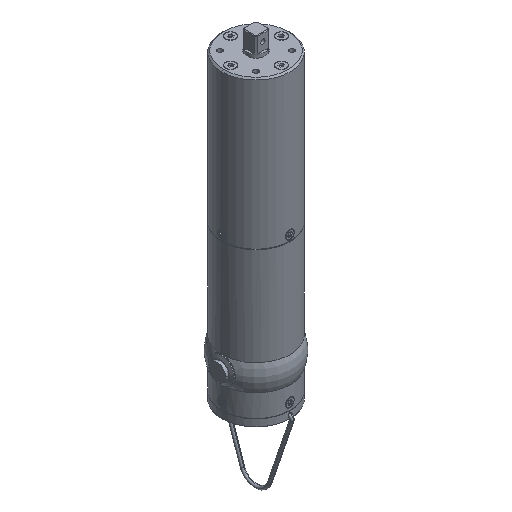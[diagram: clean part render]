
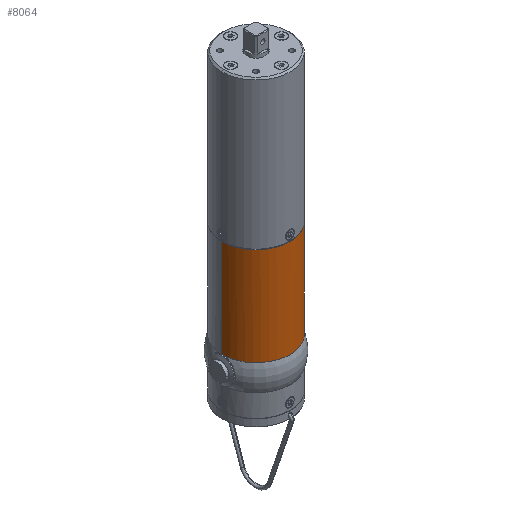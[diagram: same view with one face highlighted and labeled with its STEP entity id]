
A CAD part, isometric view. The second image highlights one B-rep face of the part: STEP entity #8064.
In plain terms, the highlighted cylindrical face has radius 23.5 mm (diameter 47 mm), a partial arc.
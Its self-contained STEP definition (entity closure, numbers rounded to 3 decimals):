
#698 = ORIENTED_EDGE ( 'NONE', *, *, #11816, .T. ) ;
#719 = CARTESIAN_POINT ( 'NONE',  ( -22.812, -1.345, -164.1 ) ) ;
#766 = CARTESIAN_POINT ( 'NONE',  ( -22.85, 0., -164. ) ) ;
#1488 = LINE ( 'NONE', #9726, #10312 ) ;
#1803 = CARTESIAN_POINT ( 'NONE',  ( -22.85, -0.448, -164. ) ) ;
#2069 = DIRECTION ( 'NONE',  ( 0., 0., -1. ) ) ;
#2896 = ORIENTED_EDGE ( 'NONE', *, *, #16130, .F. ) ;
#2962 = AXIS2_PLACEMENT_3D ( 'NONE', #5833, #5665, #16266 ) ;
#3389 = CARTESIAN_POINT ( 'NONE',  ( -22.85, 0., -164. ) ) ;
#3660 = EDGE_CURVE ( 'NONE', #6842, #6423, #9780, .T. ) ;
#3853 = DIRECTION ( 'NONE',  ( -1., 0., 0. ) ) ;
#4087 = VERTEX_POINT ( 'NONE', #11128 ) ;
#4442 = AXIS2_PLACEMENT_3D ( 'NONE', #15061, #2069, #12720 ) ;
#4771 = EDGE_CURVE ( 'NONE', #12634, #4087, #10385, .T. ) ;
#5305 = CARTESIAN_POINT ( 'NONE',  ( 24.111, -1.345, -164.1 ) ) ;
#5355 = ORIENTED_EDGE ( 'NONE', *, *, #4771, .T. ) ;
#5665 = DIRECTION ( 'NONE',  ( 0., 0., -1. ) ) ;
#5833 = CARTESIAN_POINT ( 'NONE',  ( 0.65, 0., -197.6 ) ) ;
#5933 = CARTESIAN_POINT ( 'NONE',  ( -22.837, -0.897, -164.033 ) ) ;
#6099 = DIRECTION ( 'NONE',  ( 0., 0., -1. ) ) ;
#6189 = B_SPLINE_CURVE_WITH_KNOTS ( 'NONE', 3,
 ( #13776, #5933, #1803, #766 ),
 .UNSPECIFIED., .F., .F.,
 ( 4, 4 ),
 ( 0., 0.001 ),
 .UNSPECIFIED. ) ;
#6423 = VERTEX_POINT ( 'NONE', #10469 ) ;
#6775 = DIRECTION ( 'NONE',  ( 0., 0., -1. ) ) ;
#6842 = VERTEX_POINT ( 'NONE', #13641 ) ;
#6922 = VERTEX_POINT ( 'NONE', #3389 ) ;
#7125 = VECTOR ( 'NONE', #6099, 1000. ) ;
#7150 = FACE_OUTER_BOUND ( 'NONE', #7581, .T. ) ;
#7581 = EDGE_LOOP ( 'NONE', ( #2896, #15131, #698, #12954, #9398, #5355 ) ) ;
#8064 = ADVANCED_FACE ( 'NONE', ( #7150 ), #16428, .T. ) ;
#8103 = CARTESIAN_POINT ( 'NONE',  ( 24.15, 0., -164. ) ) ;
#9398 = ORIENTED_EDGE ( 'NONE', *, *, #15474, .F. ) ;
#9726 = CARTESIAN_POINT ( 'NONE',  ( 24.15, 0., -197.6 ) ) ;
#9780 = CIRCLE ( 'NONE', #4442, 23.5 ) ;
#10312 = VECTOR ( 'NONE', #12405, 1000. ) ;
#10385 = B_SPLINE_CURVE_WITH_KNOTS ( 'NONE', 3,
 ( #5305, #15905, #17040, #8103 ),
 .UNSPECIFIED., .F., .F.,
 ( 4, 4 ),
 ( 0., 0.001 ),
 .UNSPECIFIED. ) ;
#10469 = CARTESIAN_POINT ( 'NONE',  ( -22.85, 0., -96.8 ) ) ;
#11128 = CARTESIAN_POINT ( 'NONE',  ( 24.15, 0., -164. ) ) ;
#11816 = EDGE_CURVE ( 'NONE', #6423, #6922, #15392, .T. ) ;
#12405 = DIRECTION ( 'NONE',  ( 0., 0., -1. ) ) ;
#12534 = AXIS2_PLACEMENT_3D ( 'NONE', #13300, #6775, #3853 ) ;
#12634 = VERTEX_POINT ( 'NONE', #12859 ) ;
#12720 = DIRECTION ( 'NONE',  ( -1., 0., 0. ) ) ;
#12859 = CARTESIAN_POINT ( 'NONE',  ( 24.111, -1.345, -164.1 ) ) ;
#12954 = ORIENTED_EDGE ( 'NONE', *, *, #16454, .F. ) ;
#13300 = CARTESIAN_POINT ( 'NONE',  ( 0.65, 0., -164.1 ) ) ;
#13362 = CIRCLE ( 'NONE', #12534, 23.5 ) ;
#13641 = CARTESIAN_POINT ( 'NONE',  ( 24.15, 0., -96.8 ) ) ;
#13776 = CARTESIAN_POINT ( 'NONE',  ( -22.812, -1.345, -164.1 ) ) ;
#14114 = CARTESIAN_POINT ( 'NONE',  ( -22.85, 0., -197.6 ) ) ;
#14553 = VERTEX_POINT ( 'NONE', #719 ) ;
#15061 = CARTESIAN_POINT ( 'NONE',  ( 0.65, 0., -96.8 ) ) ;
#15131 = ORIENTED_EDGE ( 'NONE', *, *, #3660, .T. ) ;
#15392 = LINE ( 'NONE', #14114, #7125 ) ;
#15474 = EDGE_CURVE ( 'NONE', #12634, #14553, #13362, .T. ) ;
#15905 = CARTESIAN_POINT ( 'NONE',  ( 24.137, -0.897, -164.033 ) ) ;
#16130 = EDGE_CURVE ( 'NONE', #6842, #4087, #1488, .T. ) ;
#16266 = DIRECTION ( 'NONE',  ( -1., 0., 0. ) ) ;
#16428 = CYLINDRICAL_SURFACE ( 'NONE', #2962, 23.5 ) ;
#16454 = EDGE_CURVE ( 'NONE', #14553, #6922, #6189, .T. ) ;
#17040 = CARTESIAN_POINT ( 'NONE',  ( 24.15, -0.448, -164. ) ) ;
